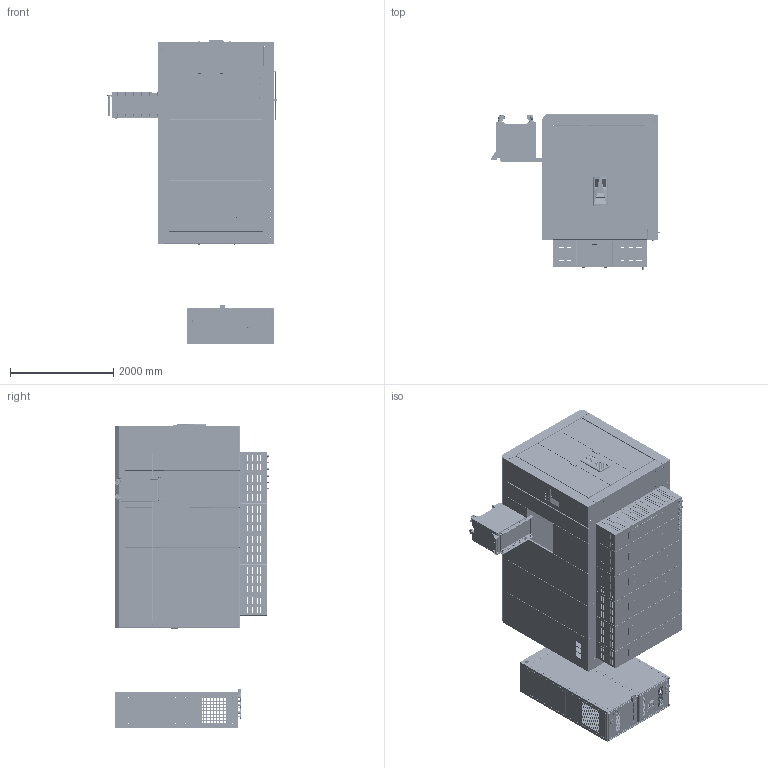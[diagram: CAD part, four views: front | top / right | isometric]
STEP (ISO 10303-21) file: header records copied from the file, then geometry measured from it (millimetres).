
FILE_DESCRIPTION(/* description */ ('11078 - Gesamtanlage vereinfacht - 2025-07-30'),/* implementation_level */ '2;1');
FILE_NAME(/* name */ '11078 - Gesamtanlage vereinfacht - 2025-07-30.stp',/* time_stamp */ '2025-07-30T11:40:38+02:00',/* author */ ('MatthiasLaub'),/* organization */ (''),/* preprocessor_version */ 'ST-DEVELOPER v19.2',/* originating_system */ 'Autodesk Inventor 2023',/* authorisation */ '');
FILE_SCHEMA (('AUTOMOTIVE_DESIGN { 1 0 10303 214 3 1 1 }'));
Products named in the file (163): 11078 - Gesamtanlage vereinfacht - 2025-07-30; 11002-010-100; 11002-220-100-00; 11002-200-100-00; 11002-200-101-00; 11002-200-101-01; 11002-224-100-00; 11002-224-100-03; 11002-200-110-00; 11002-200-111-00; 11002-200-111-01; 11002-220-102-00; 11002-220-102-01; Schaltschrank-B1800xH2000xT500; 11002-220-170-00; 11002-220-155-00; 11002-220-100-02; 11002-220-156-00; 11002-220-100-03; 11002-200-104-00; 11002-200-103-00; 11002-200-103-01; 11002-200-103-02; Verschwindscharnier-1042-U1-Teil3; 11002-200-103-03; 11002-220-100-01; 11002-220-100-04; 11002-220-100-05; 11002-220-100-07; 11002-220-100-08; 11002-220-141-00; 11002-220-100-10; 11002-220-100-11; 11002-220-100-12; 11002-220-100-16; 11002-220-100-17; 11002-220-142-00; 11002-220-143-00; 11002-220-100-18; LPW-Gewinde-Schweissbolzen-M5x12_Stahl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
Assembly tree (345 placements, depth 8):
  11078 - Gesamtanlage vereinfacht - 2025-07-30
    11002-010-100
      11002-220-100-00
        11002-200-100-00
          11002-200-101-00
            11002-200-101-01
            11002-224-100-00
              11002-224-100-03
            11002-200-110-00
              11002-200-111-00
                11002-200-111-01  x2
              11002-220-102-00
                11002-220-102-01
                LPW-Gewinde-Schweissbolzen-M6x20_Stahl  x3
          Schaltschrank-B1800xH2000xT500
        11002-220-170-00  x12
        11002-220-155-00
          11002-220-100-02
        11002-220-156-00
          11002-220-100-03
        11002-200-104-00
          11002-200-103-00
            11002-200-103-01
            11002-200-103-02
            Verschwindscharnier-1042-U1-Teil3  x3
            11002-200-103-03  x3
        11002-220-100-01
        11002-220-100-04  x2
        11002-220-100-05
        11002-220-100-07
        11002-220-100-08
        11002-220-141-00
          11002-220-100-10
        11002-220-100-11
        11002-220-100-12
        11002-220-100-16
        11002-220-100-17
        11002-220-142-00
          11002-220-143-00
            11002-220-100-18
            LPW-Gewinde-Schweissbolzen-M5x12_Stahl  x9
        11002-220-100-20
        11002-220-100-22
        11002-220-100-23
        11002-220-100-24
        11002-220-108-00
          11002-220-108-01
        11002-220-144-00
          11002-220-100-26
        11002-220-138-00
          11002-220-137-00
            11002-220-137-02
            11002-220-135-01  x3
              Verschwindscharnier-1042-U1-Teil3_1
            LPW-Gewinde-Schweissbolzen-M6x20_Stahl  x4
          Schwenkgriff-1325-U1-01
        11002-220-145-00
          11002-220-135-00
            11002-220-135-02
            11002-220-135-01  x3
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Bounding box: 3274 x 3000 x 5902 mm (x, y, z)
Volume: 348957230.3 mm3; surface area: 206735171.6 mm2
Topology: 520 solids, 557 shells, 42465 faces, 110456 edges, 69865 vertices
Faces by surface type: plane 25883, cylinder 10034, bspline 3443, cone 1291, torus 1248, sphere 566
Full cylindrical faces by diameter (mm): 0.4 x8, 0.5 x9, 1 x3, 2.5 x6, 3 x2, 3.1 x6, 3.2 x2, 3.242 x4, 3.3 x4, 3.5 x4, 4 x10, 4.134 x4, 4.2 x14, 4.3 x2, 4.5 x6, 4.917 x94, 5 x13, 5.1 x9, 5.2 x9, 5.3 x4, 5.5 x4, 5.6 x2, 5.9 x36, 6 x32, 6.1 x3, 6.5 x134, 6.647 x42, 6.7 x8, 6.8 x16, 7 x51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
Entity records: 995159 total; most frequent: CARTESIAN_POINT 295201, ORIENTED_EDGE 146520, DIRECTION 139562, EDGE_CURVE 73260, LINE 52602, VECTOR 52602, VERTEX_POINT 46429, AXIS2_PLACEMENT_3D 43480
